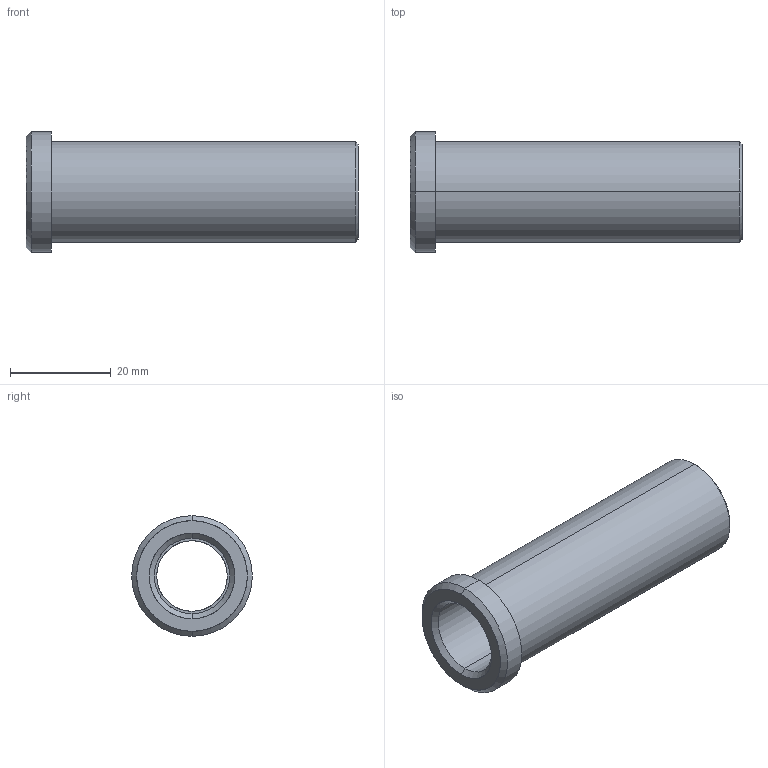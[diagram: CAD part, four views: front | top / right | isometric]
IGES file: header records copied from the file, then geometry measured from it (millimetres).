
Start section: START RECORD GO HERE.
Global section: file name: 353-14X66.igs; native system: DASSAULT SYSTEMES CATIA V5 R20 - www.3ds.com; preprocessor: CATIA Version 5 Release 20 ; author: Utente; organization: NB04-ASUS; date: 20210421.142403; units: millimetre
Bounding box: 66 x 24 x 24 mm (x, y, z)
Surface area: 7719.9 mm2 (no closed solid volume)
Topology: 0 solids, 0 shells, 20 faces, 128 edges, 128 vertices
Faces by surface type: revolution 16, plane 4
